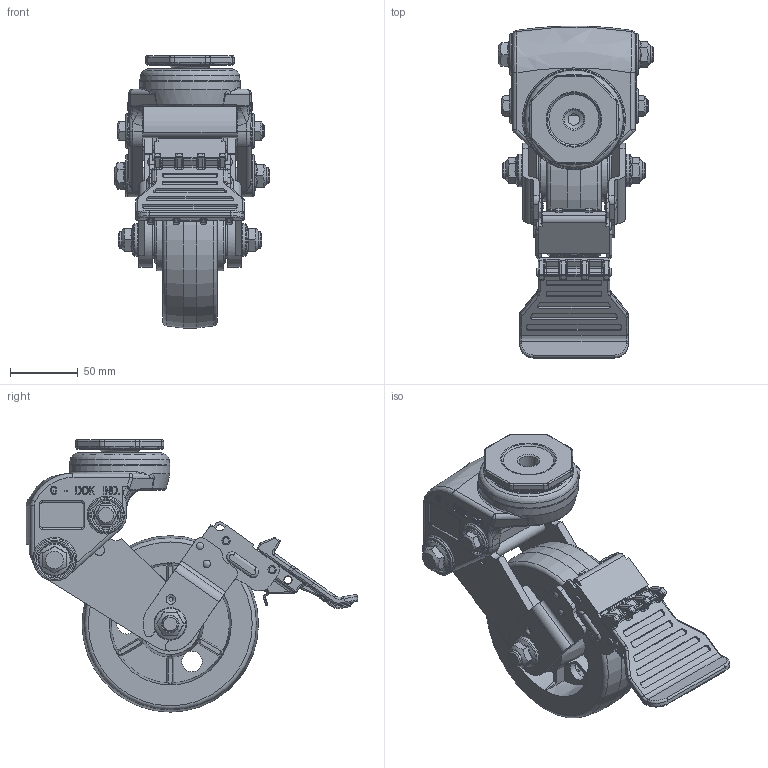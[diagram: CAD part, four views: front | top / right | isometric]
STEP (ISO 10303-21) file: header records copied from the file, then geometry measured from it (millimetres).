
FILE_DESCRIPTION((''),'2;1');
FILE_NAME('C:\Documents and Settings\Administrator\바탕 화면\3D STEP\GDS-SERIES\GDS-130\GDS-130B-SS.stp','2010-12-27T13:24:07',('Administrator'),(''),'Autodesk Inventor 2009','Autodesk Inventor 2009','');
FILE_SCHEMA(('AUTOMOTIVE_DESIGN { 1 0 10303 214 1 1 1 1 }'));
Length unit declared in the file: millimetre
Products named in the file (1): GDS-130B-SS
Bounding box: 114.5 x 244.55 x 200.6 mm (x, y, z)
Volume: 894236.4 mm3; surface area: 238965.1 mm2
Topology: 10 solids, 10 shells, 3402 faces, 9194 edges, 5849 vertices
Faces by surface type: plane 1964, cylinder 666, bspline 457, torus 138, cone 119, sphere 58
Full cylindrical faces by diameter (mm): 3 x3, 4 x6, 4.2 x8, 4.8 x2, 6 x2, 7.8 x2, 8.2 x2, 8.5 x1, 10 x4, 12 x6, 12.2 x4, 13.4 x2, 14.21 x1, 15 x7, 18 x1, 18.6 x2, 18.9 x1, 20 x1, 21.667 x4, 24 x4, 26 x2, 27 x4, 28.333 x4, 30 x2, 30.6 x1, 31 x2, 35 x2, 35.02 x2, 39 x1, 41.54 x1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
Entity records: 124108 total; most frequent: CARTESIAN_POINT 42090, ORIENTED_EDGE 17686, DIRECTION 15864, EDGE_CURVE 8843, VERTEX_POINT 5780, VECTOR 5776, LINE 5776, AXIS2_PLACEMENT_3D 5044
